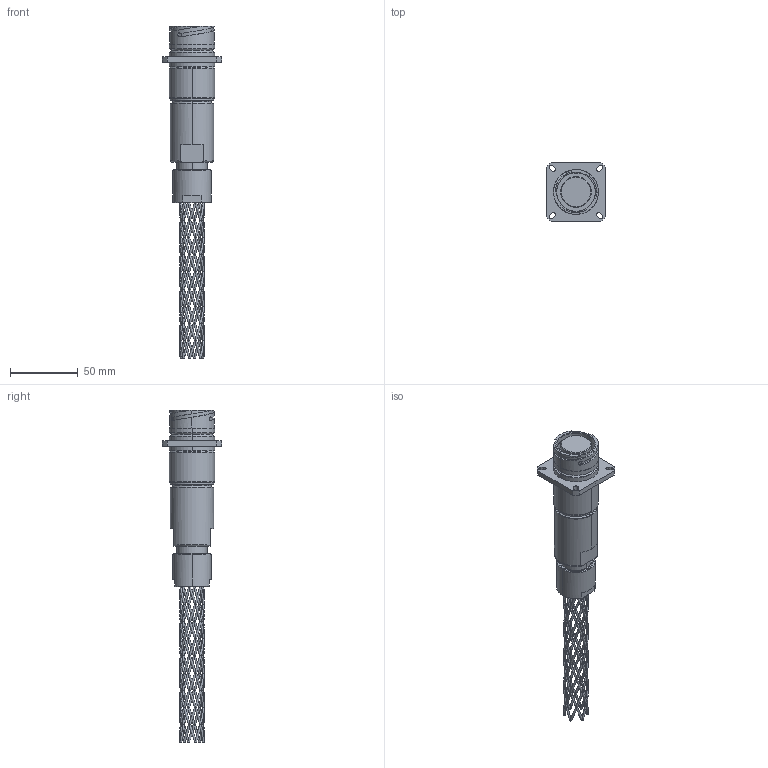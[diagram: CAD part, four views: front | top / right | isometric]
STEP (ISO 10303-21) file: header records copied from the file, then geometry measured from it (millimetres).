
FILE_DESCRIPTION (( 'STEP AP214' ), '1' );
FILE_NAME ('QLINK-RFBX-19XX-GXXX-RA.STEP', '2025-12-16T16:12:49', ( '' ), ( '' ), 'SwSTEP 2.0', 'SolidWorks 2024', '' );
FILE_SCHEMA (( 'AUTOMOTIVE_DESIGN' ));
Products named in the file (1): QLINK-RFBX-19XX-GXXX-RA
Bounding box: 43.69 x 43.69 x 244.77 mm (x, y, z)
Volume: 100521.6 mm3; surface area: 29537.3 mm2
Topology: 2 solids, 2 shells, 415 faces, 1138 edges, 639 vertices
Faces by surface type: bspline 233, cylinder 75, plane 62, torus 26, cone 19
Entity records: 107672 total; most frequent: CARTESIAN_POINT 99720, ORIENTED_EDGE 2276, EDGE_CURVE 1138, DIRECTION 1060, VERTEX_POINT 639, AXIS2_PLACEMENT_3D 450, EDGE_LOOP 445, FACE_OUTER_BOUND 415
